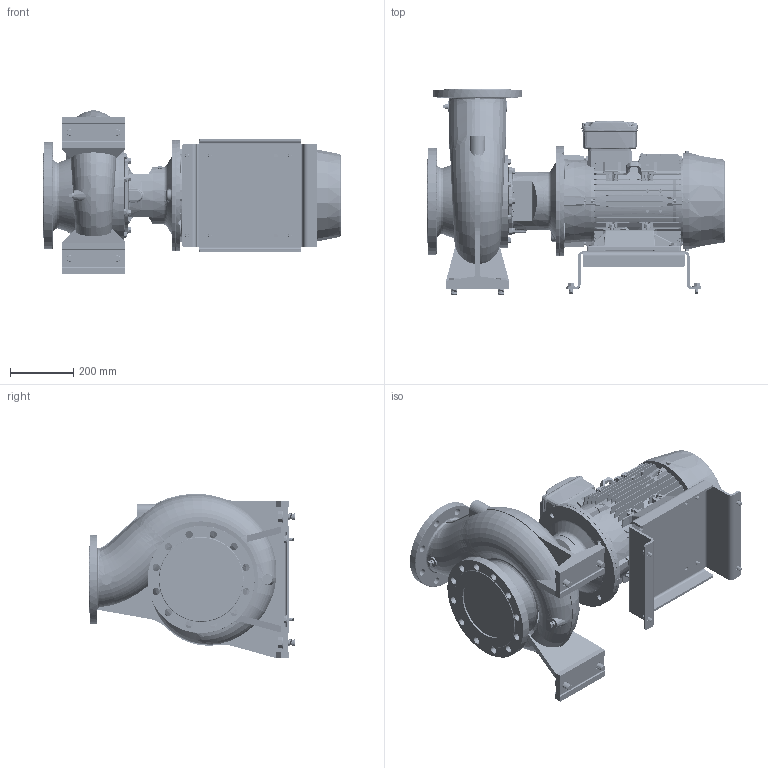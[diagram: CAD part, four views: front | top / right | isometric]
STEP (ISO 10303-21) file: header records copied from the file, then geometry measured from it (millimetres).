
FILE_DESCRIPTION (( 'STEP AP214' ), '1' );
FILE_NAME ('GSD4 150-200_11.0_(160ML)_W21.STEP', '2026-07-01T02:47:42', ( '' ), ( '' ), 'SwSTEP 2.0', 'SolidWorks 2024', '' );
FILE_SCHEMA (( 'AUTOMOTIVE_DESIGN' ));
Length unit declared in the file: millimetre
Products named in the file (12): 160M_L_ALIE3_W21T_B35; Parametric bolt and washer_SFT-A297B; Parametric Flat Washer_M12; GSD4 150-200_11.0_(160ML)_W21; CGS11-5255; Parametric bolt_SFT-A303B; 150-200-160M_L_ﾃﾞﾌｫﾙﾄ; Parametric bolt and washer_SFT-A403B; Parametric Flat Washer_M20; Parametric bolt_SFT-A403B; Parametric bolt_SFT-A297B; Parametric bolt and washer_SFT-A303B
Assembly tree (21 placements, depth 3):
  GSD4 150-200_11.0_(160ML)_W21
    150-200-160M_L_ﾃﾞﾌｫﾙﾄ
    CGS11-5255
    Parametric bolt and washer_SFT-A403B  x4
      Parametric bolt_SFT-A403B
      Parametric Flat Washer_M20
    Parametric bolt and washer_SFT-A297B  x4
      Parametric bolt_SFT-A297B
      Parametric Flat Washer_M12
    Parametric bolt and washer_SFT-A303B  x4
      Parametric bolt_SFT-A303B
      Parametric Flat Washer_M12
    160M_L_ALIE3_W21T_B35
Bounding box: 945.3 x 652 x 522.29 mm (x, y, z)
Volume: 72394164.8 mm3; surface area: 3969773.9 mm2
Topology: 63 solids, 69 shells, 6388 faces, 16475 edges, 10649 vertices
Faces by surface type: plane 3767, cylinder 1313, cone 603, bspline 468, torus 221, sphere 16
Entity records: 251573 total; most frequent: CARTESIAN_POINT 115684, ORIENTED_EDGE 29818, DIRECTION 25101, EDGE_CURVE 14909, VERTEX_POINT 9644, VECTOR 9467, LINE 9467, AXIS2_PLACEMENT_3D 7817
